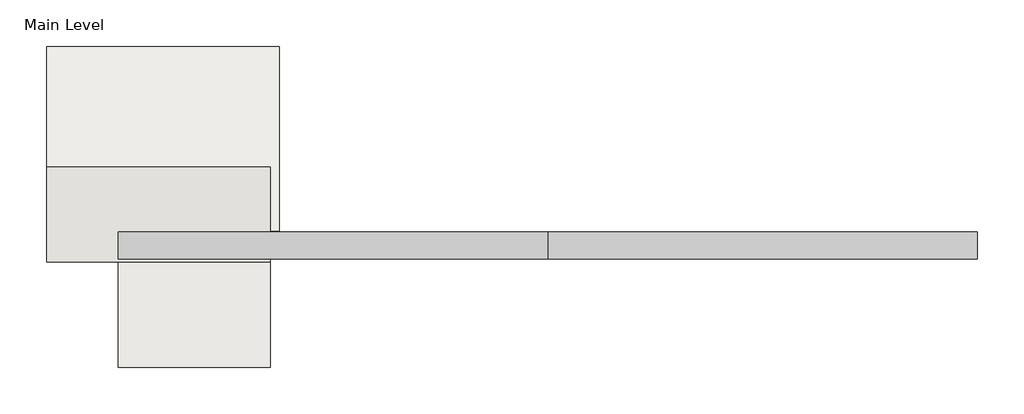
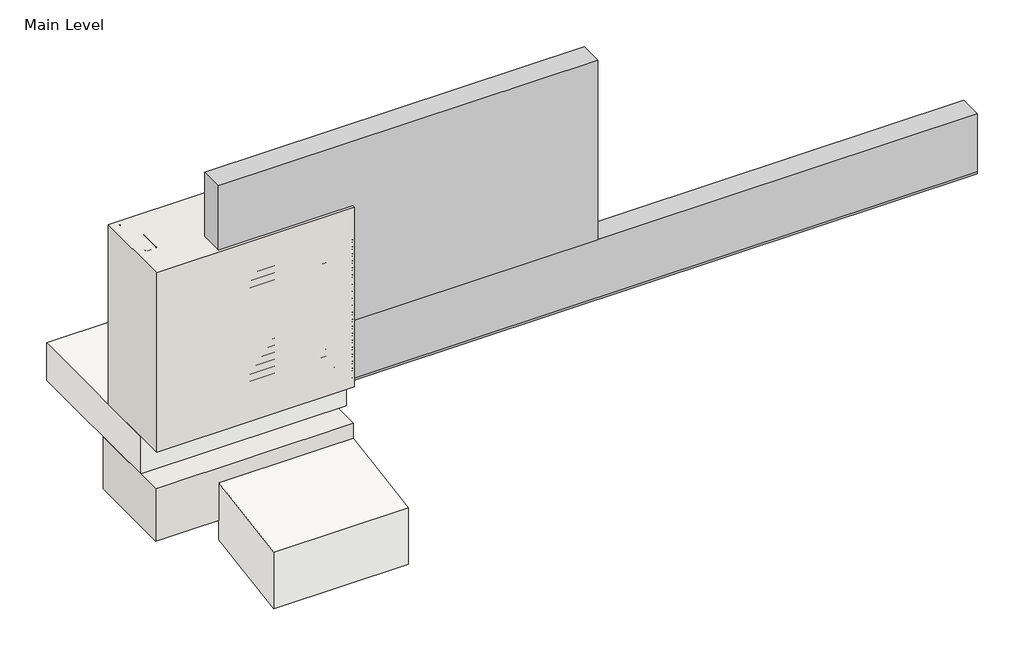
# One storey, incomplete: 6 proxies, 2 slabs, 2 walls.
"""IFC4 building model written with IfcOpenShell, lengths in millimetres."""

from ifc_helpers import new_model, si_unit, frame, origin, origin_with_axes, place, context, project, spatial, polyline, outline, extrude, transform, mapped, element, save
from components import generic_models_31547c53, generic_models_0bbfdc8f, generic_models_1e1ad44f, generic_models_7dd17a53, generic_models_441de798, generic_models_9d0e7a2a, proxy_81afb05a, proxy_e5e434bb, wood_blocking_c9818c35

model = new_model("IFC4")

# Units and contexts
model_context = context("Model", 3, world=origin())
ifc_project = project(units=[si_unit("LENGTHUNIT", "METRE", prefix="MILLI")], contexts=[model_context])

# Site, building, storey
site = spatial("IfcSite", under=ifc_project)
building = spatial("IfcBuilding", under=site)
storey = spatial("IfcBuildingStorey", under=building, Name="Main Level", Elevation=0.0)

# Proxies
placement = place(None, origin())
generic_models_shape = generic_models_31547c53(model_context)
element("IfcBuildingElementProxy", 1, Name="Durabond Generic Model Sealant Vent : Durabond Generic Model Sealant Vent", ObjectType="Durabond Generic Model Sealant Vent : Durabond Generic Model Sealant Vent", at=placement, inside=storey, context=model_context, shape_type="MappedRepresentation", body=[
    mapped(generic_models_shape, transform((26865.4101773, 546.8432813, 8.5594788), x_axis=(1.0, 0.0, 0.0), y_axis=(0.0, 0.08715574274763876, -0.9961946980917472), z_axis=(0.0, 0.9961946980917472, 0.08715574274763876))),
])
generic_models_2_shape = generic_models_0bbfdc8f(model_context)
generic_models_3_shape = generic_models_1e1ad44f(model_context)
generic_models_4_shape = generic_models_7dd17a53(model_context)
generic_models_5_shape = generic_models_441de798(model_context)
element("IfcBuildingElementProxy", 2, Name="CRAi Generic Model Mesh Piece Face Based : CRAi Generic Model Mesh Piece Face Based", ObjectType="CRAi Generic Model Mesh Piece Face Based : CRAi Generic Model Mesh Piece Face Based", at=placement, inside=storey, context=model_context, shape_type="MappedRepresentation", body=[
    mapped(generic_models_2_shape, transform((26933.6726773, 541.9066297, 261.6963215), x_axis=(-1.0, 0.0, 0.0), y_axis=(0.0, 0.0, -1.0), z_axis=(0.0, -1.0, 0.0))),
    mapped(generic_models_3_shape, transform((26933.6726773, 541.9066297, 261.6963215), x_axis=(-1.0, 0.0, 0.0), y_axis=(0.0, 0.0, -1.0), z_axis=(0.0, -1.0, 0.0))),
    mapped(generic_models_4_shape, transform((26933.6726773, 541.9066297, 261.6963215), x_axis=(-1.0, 0.0, 0.0), y_axis=(0.0, 0.0, -1.0), z_axis=(0.0, -1.0, 0.0))),
    mapped(generic_models_5_shape, transform((26933.6726773, 541.9066297, 261.6963215), x_axis=(-1.0, 0.0, 0.0), y_axis=(0.0, 0.0, -1.0), z_axis=(0.0, -1.0, 0.0))),
])
generic_models_6_shape = generic_models_9d0e7a2a(model_context)
element("IfcBuildingElementProxy", 3, Name="CRAi Generic Model Metal Stud Array : CRAi Generic Model Metal Stud Array", ObjectType="CRAi Generic Model Metal Stud Array : CRAi Generic Model Metal Stud Array", at=placement, inside=storey, context=model_context, shape_type="MappedRepresentation", body=[
    mapped(generic_models_6_shape, transform((26692.3726773, 719.7066297, 6.35), x_axis=(-1.0, 0.0, 0.0), y_axis=(0.0, -1.0, 0.0), z_axis=(0.0, 0.0, 1.0))),
])
proxy_shape = proxy_81afb05a(model_context)
element("IfcBuildingElementProxy", 4, Name="Durabond Generic Model Equalite Insulation Board : 3\"", ObjectType="Durabond Generic Model Equalite Insulation Board : 3\"", at=placement, inside=storey, context=model_context, shape_type="MappedRepresentation", body=[
    mapped(proxy_shape, transform((27276.5726773, 624.4566297, 523.392643), x_axis=(1.0, 0.0, 0.0), y_axis=(0.0, 0.0, 1.0), z_axis=(0.0, -1.0, 0.0))),
])
proxy_2_shape = proxy_e5e434bb(model_context)
element("IfcBuildingElementProxy", 5, Name="Durabond Generic Model Equalite Vent Board : 3\"", ObjectType="Durabond Generic Model Equalite Vent Board : 3\"", at=placement, inside=storey, context=model_context, shape_type="MappedRepresentation", body=[
    mapped(proxy_2_shape, transform((27886.1726773, 624.4566297, 116.992643), x_axis=(1.0, 0.0, 0.0), y_axis=(0.0, 0.0, 1.0), z_axis=(0.0, -1.0, 0.0))),
])
wood_blocking_shape = wood_blocking_c9818c35(model_context)
element("IfcBuildingElementProxy", 6, Name="CRAi Generic Model Line Based Metal Framing Track : Wood Blocking", ObjectType="CRAi Generic Model Line Based Metal Framing Track : Wood Blocking", at=placement, inside=storey, context=model_context, shape_type="MappedRepresentation", body=[
    mapped(wood_blocking_shape, transform((26489.1726773, 643.5066297, 0.0), x_axis=(1.0, 0.0, 0.0), y_axis=(0.0, 1.0, 0.0), z_axis=(0.0, 0.0, 1.0))),
])

# Slabs
element("IfcSlab", 7, ObjectType="CRAi Concrete Floor - 5\"", at=placement, inside=storey, context=model_context, shape_type="SweptSolid", body=[
    extrude(outline(polyline([(27124.1726773, 627.6316297), (26463.7726773, 627.6316297), (26463.7726773, 1151.5066297), (27124.1726773, 1151.5066297), (27124.1726773, 627.6316297)])), frame((0.0, 0.0, -127.0), z_axis=(0.0, 0.0, 1.0), x_axis=(1.0, 0.0, 0.0)), (0.0, 0.0, 1.0), 127.0),
])
element("IfcSlab", 8, ObjectType="dIRT", at=placement, inside=storey, context=model_context, shape_type="SweptSolid", body=[
    extrude(outline(polyline([(545.0816297, -370.9277103), (240.2816297, -421.7277103), (240.2816297, -228.6), (545.0816297, -177.8), (545.0816297, -370.9277103)])), frame((26666.9726773, 0.0, 0.0), z_axis=(1.0, 0.0, 0.0), x_axis=(0.0, 1.0, 0.0)), (0.0, 0.0, 1.0), 431.8),
])

# Walls
element("IfcWall", 9, ObjectType="189mm (7.5”) EIFS Field Applied on Mtl. Stud Layer - 50mm Grooved Insulation Board Metal Stud Wall(AirStop) 2", at=placement, inside=storey, context=model_context, shape_type="SweptSolid", body=[
    extrude(outline(polyline([(27098.7726773, 538.7316297), (26463.7726773, 538.7316297), (26463.7726773, 808.6066297), (27098.7726773, 808.6066297), (27098.7726773, 538.7316297)])), origin_with_axes(), (0.0, 0.0, 1.0), 609.6),
])
element("IfcWall", 10, ObjectType="CRAi Insulated Foundation", at=placement, inside=storey, context=model_context, shape_type="SweptSolid", body=[
    extrude(outline(polyline([(27098.7726773, 545.0816297), (26463.7726773, 545.0816297), (26463.7726773, 837.1816297), (27098.7726773, 837.1816297), (27098.7726773, 545.0816297)])), frame((0.0, 0.0, -304.8), z_axis=(0.0, 0.0, 1.0), x_axis=(1.0, 0.0, 0.0)), (0.0, 0.0, 1.0), 177.8),
])

save(model, "model.ifc")
